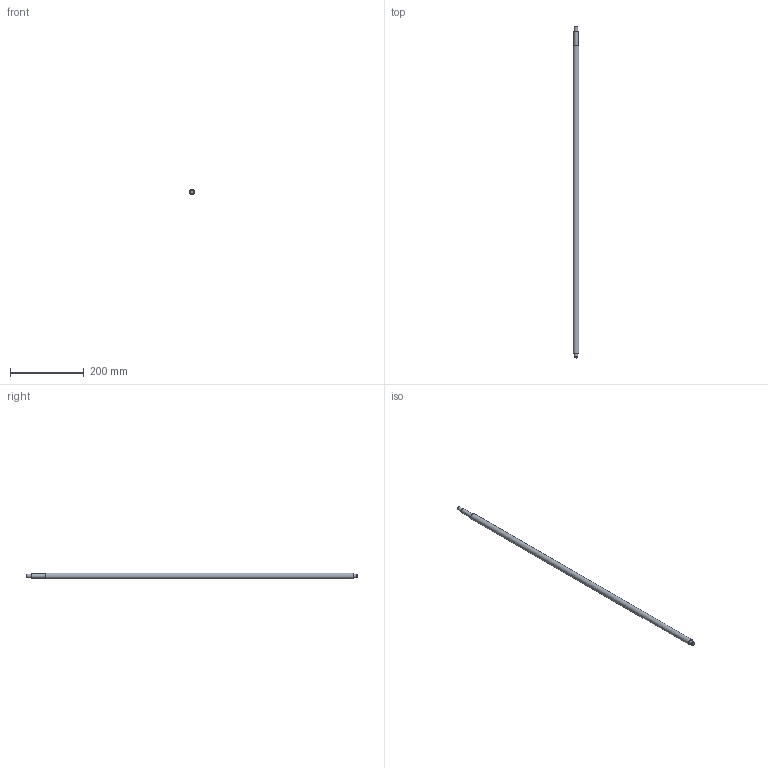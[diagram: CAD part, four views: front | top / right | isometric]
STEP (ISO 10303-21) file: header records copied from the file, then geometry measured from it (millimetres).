
FILE_DESCRIPTION(/* description */ (''),/* implementation_level */ '2;1');
FILE_NAME(/* name */ 'C:\Users\David\Desktop\stepFiles\Profilfuehrung\KUS1605x900.stp',/* time_stamp */ '2018-06-24T15:08:46+02:00',/* author */ ('David'),/* organization */ (''),/* preprocessor_version */ 'ST-DEVELOPER v17',/* originating_system */ 'Autodesk Inventor 2019',/* authorisation */ '');
FILE_SCHEMA (('AUTOMOTIVE_DESIGN { 1 0 10303 214 3 1 1 }'));
Length unit declared in the file: millimetre
Products named in the file (1): SFU1605xvariabel
Bounding box: 16 x 900 x 16 mm (x, y, z)
Volume: 174324.9 mm3; surface area: 44652.7 mm2
Topology: 1 solids, 1 shells, 15 faces, 34 edges, 26 vertices
Faces by surface type: plane 7, cylinder 6, cone 2
Full cylindrical faces by diameter (mm): 9.6 x1, 10 x3, 12 x1, 16 x1
Entity records: 493 total; most frequent: DIRECTION 92, CARTESIAN_POINT 76, ORIENTED_EDGE 68, AXIS2_PLACEMENT_3D 42, EDGE_CURVE 34, CIRCLE 26, VERTEX_POINT 26, EDGE_LOOP 20
